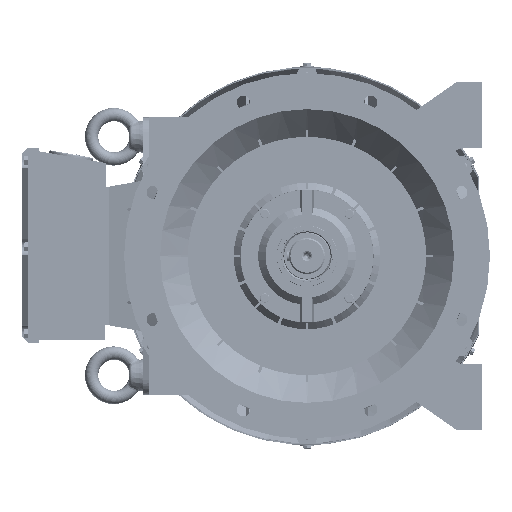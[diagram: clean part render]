
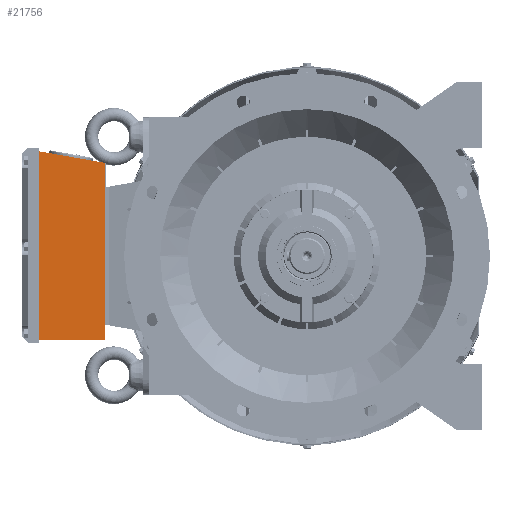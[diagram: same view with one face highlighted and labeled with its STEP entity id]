
A CAD part, left-side view. The second image highlights one B-rep face of the part: STEP entity #21756.
In plain terms, the highlighted planar face has unit normal (-1, 0, 0) as drawn and (0, 0, 1) by its records, which use the part's own axes.
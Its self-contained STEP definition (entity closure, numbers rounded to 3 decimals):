
#9785 = LINE ( 'NONE', #90851, #236109 ) ;
#11163 = DIRECTION ( 'NONE',  ( -1., 0., 0. ) ) ;
#20995 = EDGE_LOOP ( 'NONE', ( #116798, #205935, #120562, #217624 ) ) ;
#21756 = ADVANCED_FACE ( 'NONE', ( #99075 ), #198632, .T. ) ;
#26517 = LINE ( 'NONE', #63740, #169768 ) ;
#32402 = VERTEX_POINT ( 'NONE', #35438 ) ;
#35438 = CARTESIAN_POINT ( 'NONE',  ( 340.012, 122., 140. ) ) ;
#37911 = DIRECTION ( 'NONE',  ( 1., 0., 0. ) ) ;
#38116 = AXIS2_PLACEMENT_3D ( 'NONE', #180025, #239785, #37911 ) ;
#54612 = VECTOR ( 'NONE', #215040, 1000. ) ;
#62965 = VERTEX_POINT ( 'NONE', #214744 ) ;
#63740 = CARTESIAN_POINT ( 'NONE',  ( 0., 3., 140. ) ) ;
#68277 = DIRECTION ( 'NONE',  ( 0.174, 0.985, 0. ) ) ;
#73188 = EDGE_CURVE ( 'NONE', #124792, #32402, #9785, .T. ) ;
#85013 = EDGE_CURVE ( 'NONE', #62965, #142893, #26517, .T. ) ;
#87630 = DIRECTION ( 'NONE',  ( 0., -1., 0. ) ) ;
#90851 = CARTESIAN_POINT ( 'NONE',  ( 318.5, 0., 140. ) ) ;
#99075 = FACE_OUTER_BOUND ( 'NONE', #20995, .T. ) ;
#101756 = CARTESIAN_POINT ( 'NONE',  ( 0., 3., 140. ) ) ;
#116798 = ORIENTED_EDGE ( 'NONE', *, *, #147513, .T. ) ;
#120562 = ORIENTED_EDGE ( 'NONE', *, *, #158492, .T. ) ;
#124792 = VERTEX_POINT ( 'NONE', #217364 ) ;
#142893 = VERTEX_POINT ( 'NONE', #101756 ) ;
#143040 = VECTOR ( 'NONE', #11163, 1000. ) ;
#147513 = EDGE_CURVE ( 'NONE', #142893, #124792, #197746, .T. ) ;
#153282 = CARTESIAN_POINT ( 'NONE',  ( 0., 122., 140. ) ) ;
#158492 = EDGE_CURVE ( 'NONE', #32402, #62965, #229034, .T. ) ;
#169768 = VECTOR ( 'NONE', #87630, 1000. ) ;
#179130 = CARTESIAN_POINT ( 'NONE',  ( 0., 3., 140. ) ) ;
#180025 = CARTESIAN_POINT ( 'NONE',  ( 26., 122., 140. ) ) ;
#197746 = LINE ( 'NONE', #179130, #54612 ) ;
#198632 = PLANE ( 'NONE',  #38116 ) ;
#205935 = ORIENTED_EDGE ( 'NONE', *, *, #73188, .T. ) ;
#214744 = CARTESIAN_POINT ( 'NONE',  ( 0., 122., 140. ) ) ;
#215040 = DIRECTION ( 'NONE',  ( 1., 0., 0. ) ) ;
#217364 = CARTESIAN_POINT ( 'NONE',  ( 319.029, 3., 140. ) ) ;
#217624 = ORIENTED_EDGE ( 'NONE', *, *, #85013, .T. ) ;
#229034 = LINE ( 'NONE', #153282, #143040 ) ;
#236109 = VECTOR ( 'NONE', #68277, 1000. ) ;
#239785 = DIRECTION ( 'NONE',  ( 0., 0., 1. ) ) ;
